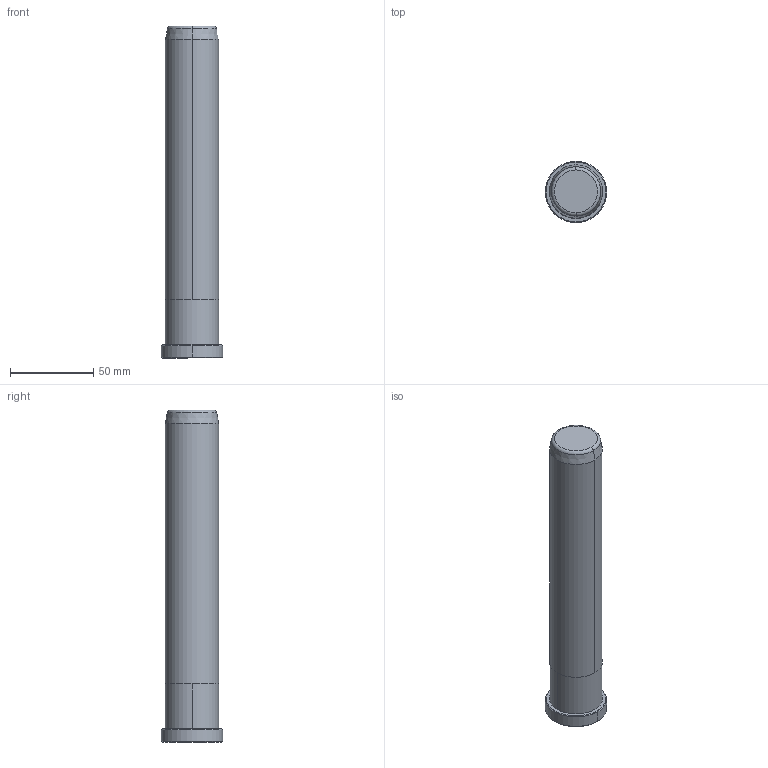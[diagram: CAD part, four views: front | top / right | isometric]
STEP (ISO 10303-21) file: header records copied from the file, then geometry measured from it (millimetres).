
FILE_DESCRIPTION((''),'2;1');
FILE_NAME('B80832200','2018-01-06T',('MANU'),(''),'PRO/ENGINEER BY PARAMETRIC TECHNOLOGY CORPORATION, 2012130','PRO/ENGINEER BY PARAMETRIC TECHNOLOGY CORPORATION, 2012130','');
FILE_SCHEMA(('CONFIG_CONTROL_DESIGN'));
Length unit declared in the file: millimetre
Products named in the file (1): B80832200
Bounding box: 37 x 37 x 200 mm (x, y, z)
Volume: 162414.4 mm3; surface area: 22103 mm2
Topology: 1 solids, 1 shells, 18 faces, 34 edges, 20 vertices
Faces by surface type: cone 6, cylinder 6, plane 4, torus 2
Entity records: 494 total; most frequent: DIRECTION 92, CARTESIAN_POINT 72, ORIENTED_EDGE 68, AXIS2_PLACEMENT_3D 40, EDGE_CURVE 34, CIRCLE 22, VERTEX_POINT 20, EDGE_LOOP 20
